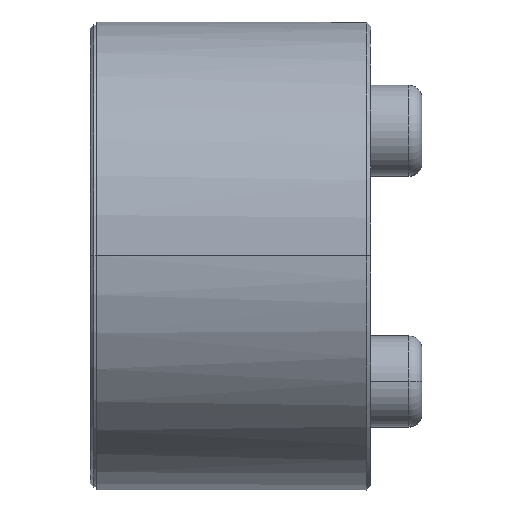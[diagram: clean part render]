
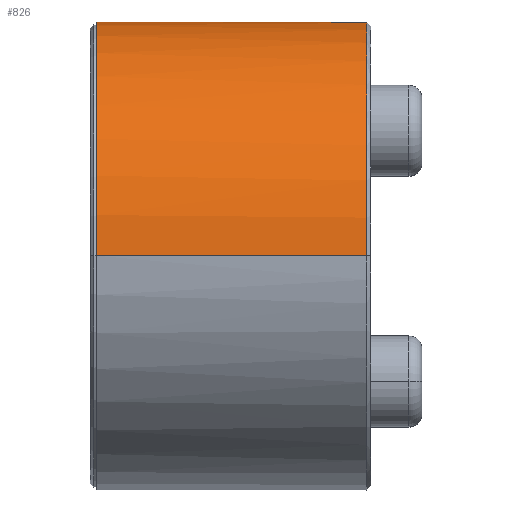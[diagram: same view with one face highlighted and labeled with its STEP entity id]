
A CAD part, top view. The second image highlights one B-rep face of the part: STEP entity #826.
In plain terms, the highlighted cylindrical face has radius 17.5 mm (diameter 35 mm), a partial arc.
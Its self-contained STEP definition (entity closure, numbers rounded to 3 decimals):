
#9 = CARTESIAN_POINT ( 'NONE',  ( 20.686, 16.94, 4.538 ) ) ;
#30 = CARTESIAN_POINT ( 'NONE',  ( 20.686, 15.187, -8.77 ) ) ;
#66 = CARTESIAN_POINT ( 'NONE',  ( 20.686, 1.145, 17.5 ) ) ;
#144 = B_SPLINE_CURVE_WITH_KNOTS ( 'NONE', 3,
 ( #2006, #66, #665, #1010, #2936, #2283, #2323, #992, #2993, #346, #682, #1985, #1303, #3011, #9, #3672, #2304, #1375, #2024, #2609, #3283, #701, #30, #328, #3302, #3960, #3652, #2366, #1636, #2670, #3999, #4023, #1032, #3632 ),
 .UNSPECIFIED., .F., .F.,
 ( 4, 2, 2, 2, 2, 2, 2, 2, 2, 2, 2, 2, 2, 2, 2, 2, 4 ),
 ( 0.245, 0.277, 0.309, 0.341, 0.373, 0.405, 0.436, 0.468, 0.5, 0.532, 0.564, 0.595, 0.627, 0.659, 0.691, 0.723, 0.755 ),
 .UNSPECIFIED. ) ;
#263 = ORIENTED_EDGE ( 'NONE', *, *, #2279, .T. ) ;
#328 = CARTESIAN_POINT ( 'NONE',  ( 20.686, 13.914, -10.675 ) ) ;
#346 = CARTESIAN_POINT ( 'NONE',  ( 20.686, 13.184, 11.565 ) ) ;
#362 = CARTESIAN_POINT ( 'NONE',  ( 0.486, 0., 0. ) ) ;
#477 = AXIS2_PLACEMENT_3D ( 'NONE', #1329, #4267, #1644 ) ;
#480 = LINE ( 'NONE', #2835, #1850 ) ;
#522 = DIRECTION ( 'NONE',  ( 1., 0., 0. ) ) ;
#665 = CARTESIAN_POINT ( 'NONE',  ( 20.686, 2.29, 17.387 ) ) ;
#682 = CARTESIAN_POINT ( 'NONE',  ( 20.686, 13.914, 10.675 ) ) ;
#701 = CARTESIAN_POINT ( 'NONE',  ( 20.686, 15.73, -7.755 ) ) ;
#733 = EDGE_LOOP ( 'NONE', ( #2951, #3120, #263, #2607 ) ) ;
#812 = VECTOR ( 'NONE', #2055, 1000. ) ;
#826 = ADVANCED_FACE ( 'NONE', ( #3629 ), #3322, .T. ) ;
#850 = VERTEX_POINT ( 'NONE', #3751 ) ;
#992 = CARTESIAN_POINT ( 'NONE',  ( 20.686, 10.675, 13.915 ) ) ;
#1010 = CARTESIAN_POINT ( 'NONE',  ( 20.686, 4.537, 16.94 ) ) ;
#1032 = CARTESIAN_POINT ( 'NONE',  ( 20.686, 1.145, -17.5 ) ) ;
#1275 = AXIS2_PLACEMENT_3D ( 'NONE', #362, #2909, #1941 ) ;
#1303 = CARTESIAN_POINT ( 'NONE',  ( 20.686, 15.73, 7.755 ) ) ;
#1329 = CARTESIAN_POINT ( 'NONE',  ( 0.486, 0., 0. ) ) ;
#1375 = CARTESIAN_POINT ( 'NONE',  ( 20.686, 17.5, -1.145 ) ) ;
#1634 = VERTEX_POINT ( 'NONE', #4092 ) ;
#1636 = CARTESIAN_POINT ( 'NONE',  ( 20.686, 7.755, -15.73 ) ) ;
#1644 = DIRECTION ( 'NONE',  ( 0., -0.998, 0.057 ) ) ;
#1850 = VECTOR ( 'NONE', #522, 1000. ) ;
#1941 = DIRECTION ( 'NONE',  ( 0., 0., 1. ) ) ;
#1985 = CARTESIAN_POINT ( 'NONE',  ( 20.686, 15.187, 8.77 ) ) ;
#2000 = CIRCLE ( 'NONE', #477, 17.5 ) ;
#2006 = CARTESIAN_POINT ( 'NONE',  ( 20.686, -0.001, 17.5 ) ) ;
#2024 = CARTESIAN_POINT ( 'NONE',  ( 20.686, 17.387, -2.291 ) ) ;
#2055 = DIRECTION ( 'NONE',  ( 1., 0., 0. ) ) ;
#2279 = EDGE_CURVE ( 'NONE', #850, #2694, #480, .T. ) ;
#2283 = CARTESIAN_POINT ( 'NONE',  ( 20.686, 7.755, 15.73 ) ) ;
#2304 = CARTESIAN_POINT ( 'NONE',  ( 20.686, 17.5, 1.145 ) ) ;
#2323 = CARTESIAN_POINT ( 'NONE',  ( 20.686, 8.77, 15.187 ) ) ;
#2366 = CARTESIAN_POINT ( 'NONE',  ( 20.686, 8.77, -15.187 ) ) ;
#2607 = ORIENTED_EDGE ( 'NONE', *, *, #2867, .T. ) ;
#2609 = CARTESIAN_POINT ( 'NONE',  ( 20.686, 16.94, -4.538 ) ) ;
#2670 = CARTESIAN_POINT ( 'NONE',  ( 20.686, 5.638, -16.606 ) ) ;
#2694 = VERTEX_POINT ( 'NONE', #4094 ) ;
#2835 = CARTESIAN_POINT ( 'NONE',  ( 0.486, 0., 17.5 ) ) ;
#2867 = EDGE_CURVE ( 'NONE', #2694, #3535, #144, .T. ) ;
#2909 = DIRECTION ( 'NONE',  ( 1., 0., 0. ) ) ;
#2936 = CARTESIAN_POINT ( 'NONE',  ( 20.686, 5.638, 16.606 ) ) ;
#2951 = ORIENTED_EDGE ( 'NONE', *, *, #3450, .F. ) ;
#2993 = CARTESIAN_POINT ( 'NONE',  ( 20.686, 11.564, 13.184 ) ) ;
#3011 = CARTESIAN_POINT ( 'NONE',  ( 20.686, 16.606, 5.639 ) ) ;
#3120 = ORIENTED_EDGE ( 'NONE', *, *, #3637, .F. ) ;
#3221 = CARTESIAN_POINT ( 'NONE',  ( 20.686, -0.001, -17.5 ) ) ;
#3283 = CARTESIAN_POINT ( 'NONE',  ( 20.686, 16.606, -5.639 ) ) ;
#3302 = CARTESIAN_POINT ( 'NONE',  ( 20.686, 13.184, -11.565 ) ) ;
#3322 = CYLINDRICAL_SURFACE ( 'NONE', #1275, 17.5 ) ;
#3450 = EDGE_CURVE ( 'NONE', #1634, #3535, #4036, .T. ) ;
#3535 = VERTEX_POINT ( 'NONE', #3221 ) ;
#3629 = FACE_OUTER_BOUND ( 'NONE', #733, .T. ) ;
#3632 = CARTESIAN_POINT ( 'NONE',  ( 20.686, -0.001, -17.5 ) ) ;
#3637 = EDGE_CURVE ( 'NONE', #850, #1634, #2000, .T. ) ;
#3652 = CARTESIAN_POINT ( 'NONE',  ( 20.686, 10.675, -13.915 ) ) ;
#3672 = CARTESIAN_POINT ( 'NONE',  ( 20.686, 17.387, 2.291 ) ) ;
#3702 = CARTESIAN_POINT ( 'NONE',  ( 0.486, 0., -17.5 ) ) ;
#3751 = CARTESIAN_POINT ( 'NONE',  ( 0.486, 0., 17.5 ) ) ;
#3960 = CARTESIAN_POINT ( 'NONE',  ( 20.686, 11.564, -13.184 ) ) ;
#3999 = CARTESIAN_POINT ( 'NONE',  ( 20.686, 4.537, -16.94 ) ) ;
#4023 = CARTESIAN_POINT ( 'NONE',  ( 20.686, 2.29, -17.387 ) ) ;
#4036 = LINE ( 'NONE', #3702, #812 ) ;
#4092 = CARTESIAN_POINT ( 'NONE',  ( 0.486, 0., -17.5 ) ) ;
#4094 = CARTESIAN_POINT ( 'NONE',  ( 20.686, -0.001, 17.5 ) ) ;
#4267 = DIRECTION ( 'NONE',  ( -1., 0., 0. ) ) ;
